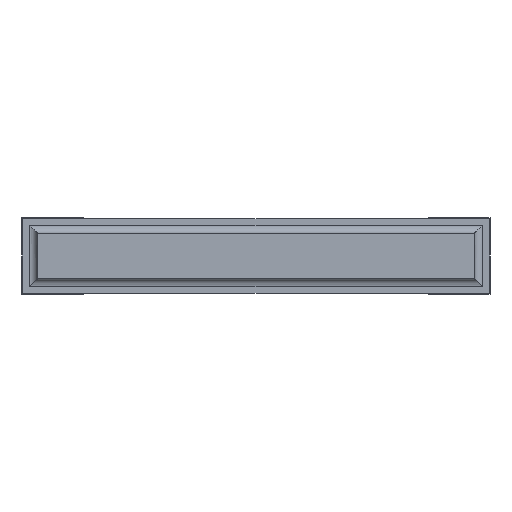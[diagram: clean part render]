
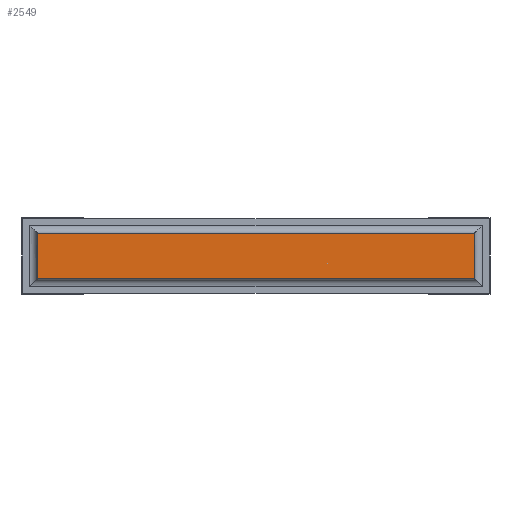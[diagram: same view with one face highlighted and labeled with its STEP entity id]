
A CAD part, front view. The second image highlights one B-rep face of the part: STEP entity #2549.
In plain terms, the highlighted planar face has unit normal (0, -1, 0).
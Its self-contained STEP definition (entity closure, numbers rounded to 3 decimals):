
#43=PLANE('',#2739);
#173=FACE_OUTER_BOUND('',#332,.T.);
#332=EDGE_LOOP('',(#1817,#1818,#1819,#1820));
#492=LINE('',#3645,#824);
#498=LINE('',#3661,#830);
#507=LINE('',#3678,#839);
#508=LINE('',#3680,#840);
#824=VECTOR('',#2930,10.);
#830=VECTOR('',#2944,10.);
#839=VECTOR('',#2961,10.);
#840=VECTOR('',#2964,10.);
#1189=VERTEX_POINT('',#3642);
#1190=VERTEX_POINT('',#3644);
#1195=VERTEX_POINT('',#3657);
#1196=VERTEX_POINT('',#3659);
#1422=EDGE_CURVE('',#1190,#1189,#492,.T.);
#1430=EDGE_CURVE('',#1196,#1195,#498,.T.);
#1439=EDGE_CURVE('',#1190,#1196,#507,.T.);
#1440=EDGE_CURVE('',#1195,#1189,#508,.T.);
#1817=ORIENTED_EDGE('',*,*,#1439,.F.);
#1818=ORIENTED_EDGE('',*,*,#1422,.T.);
#1819=ORIENTED_EDGE('',*,*,#1440,.F.);
#1820=ORIENTED_EDGE('',*,*,#1430,.F.);
#2549=ADVANCED_FACE('',(#173),#43,.T.);
#2739=AXIS2_PLACEMENT_3D('',#3679,#2962,#2963);
#2930=DIRECTION('',(0.,0.,-1.));
#2944=DIRECTION('',(0.,0.,-1.));
#2961=DIRECTION('',(1.,0.,0.));
#2962=DIRECTION('center_axis',(0.,-1.,0.));
#2963=DIRECTION('ref_axis',(0.,0.,-1.));
#2964=DIRECTION('',(-1.,0.,0.));
#3642=CARTESIAN_POINT('',(0.1,0.,0.1));
#3644=CARTESIAN_POINT('',(0.1,0.,0.4));
#3645=CARTESIAN_POINT('',(0.1,0.,0.4));
#3657=CARTESIAN_POINT('',(2.96,0.,0.1));
#3659=CARTESIAN_POINT('',(2.96,0.,0.4));
#3661=CARTESIAN_POINT('',(2.96,0.,0.4));
#3678=CARTESIAN_POINT('',(0.1,0.,0.4));
#3679=CARTESIAN_POINT('Origin',(2.96,0.,0.25));
#3680=CARTESIAN_POINT('',(2.96,0.,0.1));
